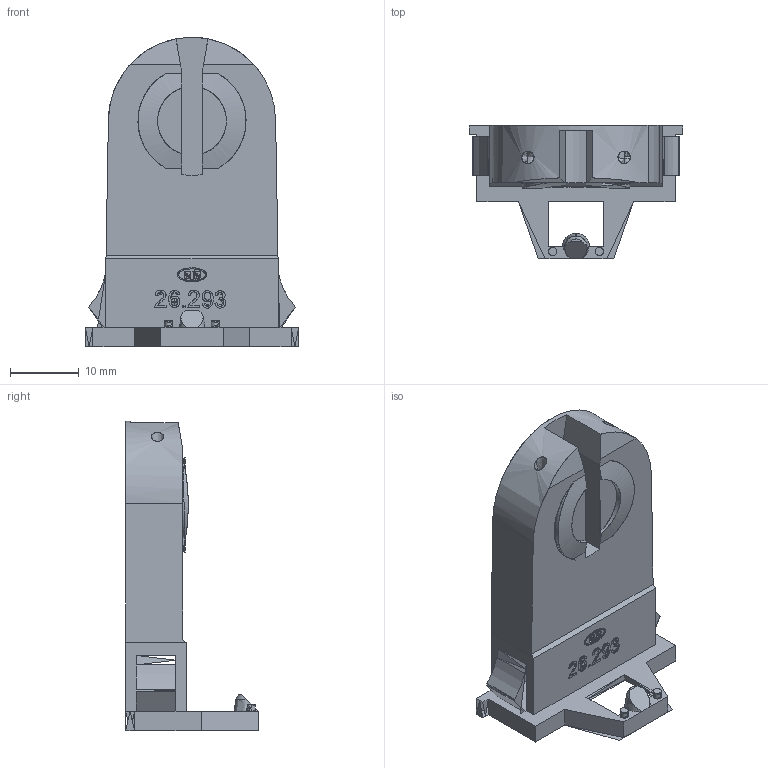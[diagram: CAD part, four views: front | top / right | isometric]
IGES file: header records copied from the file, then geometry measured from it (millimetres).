
Global section: file name: C:\Programme\core_technologie\in\00AYN0HY06.igs; native system: CT CoreTechnologie 3D Evolution; preprocessor: 2006; author: assmuth; date: 071219.102643; units: millimetre
Bounding box: 31 x 19.3 x 44.95 mm (x, y, z)
Surface area: 4446.9 mm2 (no closed solid volume)
Topology: 0 solids, 0 shells, 250 faces, 1254 edges, 1218 vertices
Faces by surface type: bspline 250
